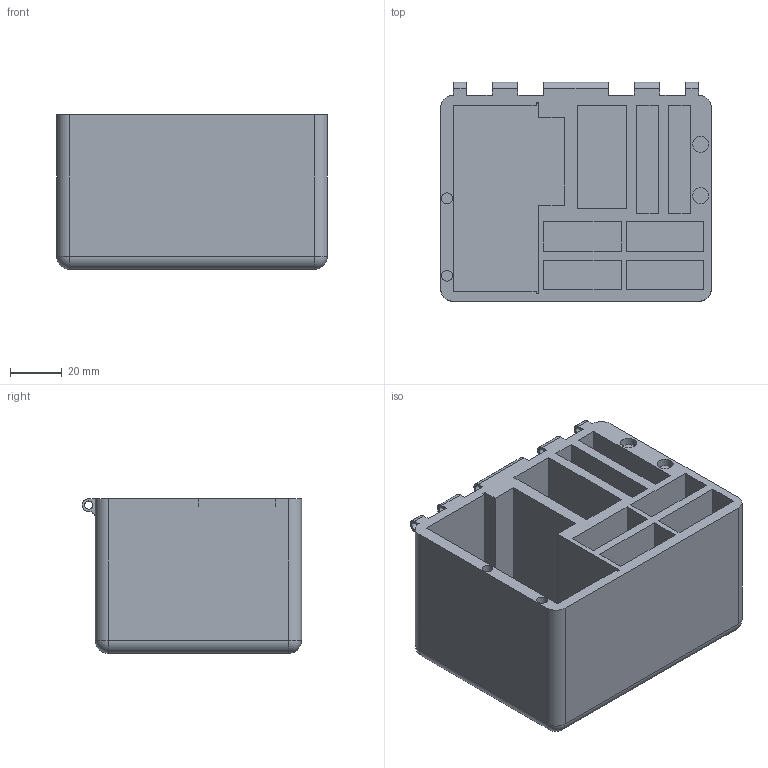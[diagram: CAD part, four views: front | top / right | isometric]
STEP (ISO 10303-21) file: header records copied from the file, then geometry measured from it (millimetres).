
FILE_DESCRIPTION (( 'STEP AP214' ), '1' );
FILE_NAME ('碟赽.STEP', '2024-11-10T03:43:12', ( '' ), ( '' ), 'SwSTEP 2.0', 'SolidWorks 2024', '' );
FILE_SCHEMA (( 'AUTOMOTIVE_DESIGN' ));
Length unit declared in the file: millimetre
Products named in the file (1): 盒子
Bounding box: 105 x 85 x 60 mm (x, y, z)
Volume: 259533.6 mm3; surface area: 74643.4 mm2
Topology: 1 solids, 1 shells, 113 faces, 287 edges, 184 vertices
Faces by surface type: plane 68, cylinder 41, sphere 4
Entity records: 3410 total; most frequent: DIRECTION 593, CARTESIAN_POINT 581, ORIENTED_EDGE 566, EDGE_CURVE 283, LINE 201, VECTOR 201, AXIS2_PLACEMENT_3D 196, VERTEX_POINT 184
